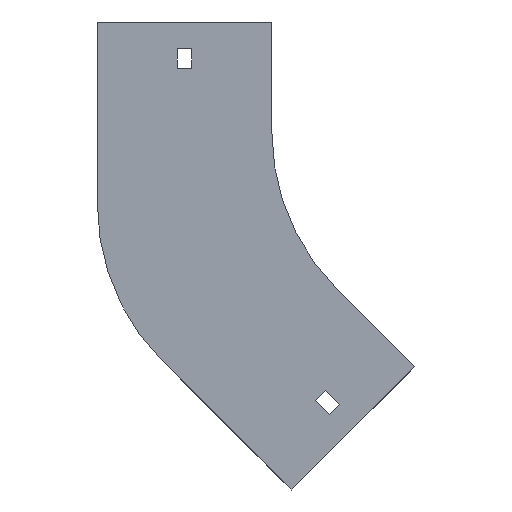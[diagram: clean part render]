
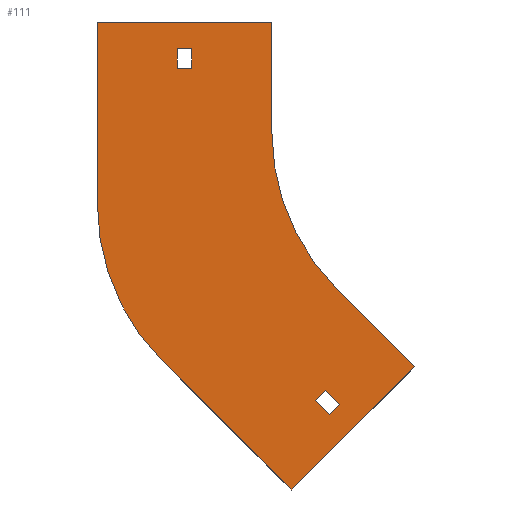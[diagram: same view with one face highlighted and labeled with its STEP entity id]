
A CAD part, front view. The second image highlights one B-rep face of the part: STEP entity #111.
In plain terms, the highlighted planar face has unit normal (0, -1, 0).
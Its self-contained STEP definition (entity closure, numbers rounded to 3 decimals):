
#21 = VERTEX_POINT ( 'NONE', #760 ) ;
#50 = EDGE_CURVE ( 'NONE', #375, #1441, #460, .T. ) ;
#55 = ORIENTED_EDGE ( 'NONE', *, *, #1180, .F. ) ;
#91 = CARTESIAN_POINT ( 'NONE',  ( -80.433, 0., -121.446 ) ) ;
#110 = VECTOR ( 'NONE', #605, 1000. ) ;
#111 = ADVANCED_FACE ( 'NONE', ( #802, #471, #219 ), #929, .T. ) ;
#124 = ORIENTED_EDGE ( 'NONE', *, *, #187, .F. ) ;
#128 = LINE ( 'NONE', #1920, #833 ) ;
#131 = VERTEX_POINT ( 'NONE', #1104 ) ;
#173 = CARTESIAN_POINT ( 'NONE',  ( -142.75, 0., 29. ) ) ;
#174 = CIRCLE ( 'NONE', #1759, 100. ) ;
#187 = EDGE_CURVE ( 'NONE', #1730, #970, #1630, .T. ) ;
#219 = FACE_BOUND ( 'NONE', #299, .T. ) ;
#230 = EDGE_LOOP ( 'NONE', ( #1542, #1442, #124, #1685, #843, #1838, #476, #1468 ) ) ;
#299 = EDGE_LOOP ( 'NONE', ( #1385, #1844, #1352, #55 ) ) ;
#300 = EDGE_CURVE ( 'NONE', #1441, #1141, #1266, .T. ) ;
#318 = EDGE_LOOP ( 'NONE', ( #1411, #763, #629, #1818 ) ) ;
#341 = DIRECTION ( 'NONE',  ( 0.707, 0., -0.707 ) ) ;
#344 = DIRECTION ( 'NONE',  ( 0., 0., -1. ) ) ;
#353 = VERTEX_POINT ( 'NONE', #1288 ) ;
#365 = DIRECTION ( 'NONE',  ( 1., 0., 0. ) ) ;
#373 = VERTEX_POINT ( 'NONE', #1435 ) ;
#375 = VERTEX_POINT ( 'NONE', #91 ) ;
#394 = VECTOR ( 'NONE', #1325, 1000. ) ;
#403 = EDGE_CURVE ( 'NONE', #1826, #1730, #999, .T. ) ;
#410 = EDGE_CURVE ( 'NONE', #1147, #373, #513, .T. ) ;
#431 = VECTOR ( 'NONE', #1534, 1000. ) ;
#440 = LINE ( 'NONE', #1041, #487 ) ;
#460 = LINE ( 'NONE', #1536, #470 ) ;
#468 = CARTESIAN_POINT ( 'NONE',  ( -80.433, 0., -121.446 ) ) ;
#470 = VECTOR ( 'NONE', #341, 1000. ) ;
#471 = FACE_OUTER_BOUND ( 'NONE', #230, .T. ) ;
#476 = ORIENTED_EDGE ( 'NONE', *, *, #577, .F. ) ;
#478 = LINE ( 'NONE', #1794, #110 ) ;
#487 = VECTOR ( 'NONE', #1469, 1000. ) ;
#513 = LINE ( 'NONE', #968, #1102 ) ;
#518 = CARTESIAN_POINT ( 'NONE',  ( -69.473, 0., -123.213 ) ) ;
#520 = CARTESIAN_POINT ( 'NONE',  ( -74.069, 0., -127.81 ) ) ;
#577 = EDGE_CURVE ( 'NONE', #954, #691, #174, .T. ) ;
#597 = DIRECTION ( 'NONE',  ( 1., 0., 0. ) ) ;
#605 = DIRECTION ( 'NONE',  ( 0.707, 0., -0.707 ) ) ;
#626 = VECTOR ( 'NONE', #344, 1000. ) ;
#629 = ORIENTED_EDGE ( 'NONE', *, *, #1549, .T. ) ;
#650 = LINE ( 'NONE', #1253, #626 ) ;
#664 = LINE ( 'NONE', #817, #1559 ) ;
#677 = DIRECTION ( 'NONE',  ( 0., 1., 0. ) ) ;
#683 = CARTESIAN_POINT ( 'NONE',  ( -136.25, 0., 29. ) ) ;
#690 = EDGE_CURVE ( 'NONE', #691, #704, #478, .T. ) ;
#691 = VERTEX_POINT ( 'NONE', #1802 ) ;
#698 = LINE ( 'NONE', #683, #1834 ) ;
#704 = VERTEX_POINT ( 'NONE', #1367 ) ;
#760 = CARTESIAN_POINT ( 'NONE',  ( -100., 0., 50. ) ) ;
#763 = ORIENTED_EDGE ( 'NONE', *, *, #410, .T. ) ;
#766 = CARTESIAN_POINT ( 'NONE',  ( -149.711, 0., -103.434 ) ) ;
#802 = FACE_BOUND ( 'NONE', #318, .T. ) ;
#813 = EDGE_CURVE ( 'NONE', #353, #375, #1815, .T. ) ;
#817 = CARTESIAN_POINT ( 'NONE',  ( -179., 0., -32.723 ) ) ;
#833 = VECTOR ( 'NONE', #885, 1000. ) ;
#843 = ORIENTED_EDGE ( 'NONE', *, *, #1601, .F. ) ;
#868 = CARTESIAN_POINT ( 'NONE',  ( -136.25, 0., 29. ) ) ;
#885 = DIRECTION ( 'NONE',  ( -0.707, 0., -0.707 ) ) ;
#925 = LINE ( 'NONE', #1243, #1878 ) ;
#929 = PLANE ( 'NONE',  #1538 ) ;
#935 = DIRECTION ( 'NONE',  ( -0.707, 0., 0.707 ) ) ;
#937 = CARTESIAN_POINT ( 'NONE',  ( -91.217, 0., -161.927 ) ) ;
#954 = VERTEX_POINT ( 'NONE', #1037 ) ;
#960 = VECTOR ( 'NONE', #597, 1000. ) ;
#968 = CARTESIAN_POINT ( 'NONE',  ( -142.75, 0., 38. ) ) ;
#970 = VERTEX_POINT ( 'NONE', #1638 ) ;
#999 = LINE ( 'NONE', #1860, #1687 ) ;
#1006 = DIRECTION ( 'NONE',  ( 0., 0., -1. ) ) ;
#1037 = CARTESIAN_POINT ( 'NONE',  ( -100., 0., 0. ) ) ;
#1041 = CARTESIAN_POINT ( 'NONE',  ( -142.75, 0., 29. ) ) ;
#1072 = CARTESIAN_POINT ( 'NONE',  ( 0., 0., 0. ) ) ;
#1089 = VERTEX_POINT ( 'NONE', #1148 ) ;
#1102 = VECTOR ( 'NONE', #365, 1000. ) ;
#1104 = CARTESIAN_POINT ( 'NONE',  ( -142.75, 0., 29. ) ) ;
#1141 = VERTEX_POINT ( 'NONE', #518 ) ;
#1147 = VERTEX_POINT ( 'NONE', #1263 ) ;
#1148 = CARTESIAN_POINT ( 'NONE',  ( -179., 0., 50. ) ) ;
#1178 = DIRECTION ( 'NONE',  ( 0., -1., 0. ) ) ;
#1180 = EDGE_CURVE ( 'NONE', #1141, #353, #925, .T. ) ;
#1218 = EDGE_CURVE ( 'NONE', #21, #954, #650, .T. ) ;
#1243 = CARTESIAN_POINT ( 'NONE',  ( -75.837, 0., -116.849 ) ) ;
#1253 = CARTESIAN_POINT ( 'NONE',  ( -100., 0., 50. ) ) ;
#1263 = CARTESIAN_POINT ( 'NONE',  ( -142.75, 0., 38. ) ) ;
#1266 = LINE ( 'NONE', #520, #1946 ) ;
#1288 = CARTESIAN_POINT ( 'NONE',  ( -75.837, 0., -116.849 ) ) ;
#1291 = CARTESIAN_POINT ( 'NONE',  ( -74.069, 0., -127.81 ) ) ;
#1292 = AXIS2_PLACEMENT_3D ( 'NONE', #1600, #677, #1896 ) ;
#1299 = DIRECTION ( 'NONE',  ( 0., 0., -1. ) ) ;
#1312 = CARTESIAN_POINT ( 'NONE',  ( 0., 0., 0. ) ) ;
#1323 = CARTESIAN_POINT ( 'NONE',  ( -179., 0., 50. ) ) ;
#1325 = DIRECTION ( 'NONE',  ( 0., 0., 1. ) ) ;
#1352 = ORIENTED_EDGE ( 'NONE', *, *, #813, .F. ) ;
#1367 = CARTESIAN_POINT ( 'NONE',  ( -35.355, 0., -106.066 ) ) ;
#1385 = ORIENTED_EDGE ( 'NONE', *, *, #300, .F. ) ;
#1386 = DIRECTION ( 'NONE',  ( 0., -1., 0. ) ) ;
#1389 = VERTEX_POINT ( 'NONE', #868 ) ;
#1411 = ORIENTED_EDGE ( 'NONE', *, *, #1573, .T. ) ;
#1435 = CARTESIAN_POINT ( 'NONE',  ( -136.25, 0., 38. ) ) ;
#1441 = VERTEX_POINT ( 'NONE', #1291 ) ;
#1442 = ORIENTED_EDGE ( 'NONE', *, *, #1793, .F. ) ;
#1468 = ORIENTED_EDGE ( 'NONE', *, *, #1218, .F. ) ;
#1469 = DIRECTION ( 'NONE',  ( -1., 0., 0. ) ) ;
#1510 = LINE ( 'NONE', #173, #394 ) ;
#1534 = DIRECTION ( 'NONE',  ( -0.707, 0., -0.707 ) ) ;
#1536 = CARTESIAN_POINT ( 'NONE',  ( -80.433, 0., -121.446 ) ) ;
#1538 = AXIS2_PLACEMENT_3D ( 'NONE', #1072, #1386, #1666 ) ;
#1542 = ORIENTED_EDGE ( 'NONE', *, *, #1898, .F. ) ;
#1549 = EDGE_CURVE ( 'NONE', #373, #1389, #698, .T. ) ;
#1559 = VECTOR ( 'NONE', #1714, 1000. ) ;
#1573 = EDGE_CURVE ( 'NONE', #131, #1147, #1510, .T. ) ;
#1600 = CARTESIAN_POINT ( 'NONE',  ( -79., 0., -32.723 ) ) ;
#1601 = EDGE_CURVE ( 'NONE', #704, #1826, #128, .T. ) ;
#1630 = CIRCLE ( 'NONE', #1292, 100. ) ;
#1638 = CARTESIAN_POINT ( 'NONE',  ( -179., 0., -32.723 ) ) ;
#1666 = DIRECTION ( 'NONE',  ( 0., 0., -1. ) ) ;
#1685 = ORIENTED_EDGE ( 'NONE', *, *, #403, .F. ) ;
#1687 = VECTOR ( 'NONE', #1847, 1000. ) ;
#1714 = DIRECTION ( 'NONE',  ( 0., 0., 1. ) ) ;
#1716 = DIRECTION ( 'NONE',  ( 0.707, 0., 0.707 ) ) ;
#1730 = VERTEX_POINT ( 'NONE', #766 ) ;
#1758 = LINE ( 'NONE', #1323, #960 ) ;
#1759 = AXIS2_PLACEMENT_3D ( 'NONE', #1312, #1178, #1006 ) ;
#1793 = EDGE_CURVE ( 'NONE', #970, #1089, #664, .T. ) ;
#1794 = CARTESIAN_POINT ( 'NONE',  ( -70.711, 0., -70.711 ) ) ;
#1802 = CARTESIAN_POINT ( 'NONE',  ( -70.711, 0., -70.711 ) ) ;
#1815 = LINE ( 'NONE', #468, #431 ) ;
#1818 = ORIENTED_EDGE ( 'NONE', *, *, #1892, .T. ) ;
#1826 = VERTEX_POINT ( 'NONE', #937 ) ;
#1834 = VECTOR ( 'NONE', #1299, 1000. ) ;
#1838 = ORIENTED_EDGE ( 'NONE', *, *, #690, .F. ) ;
#1844 = ORIENTED_EDGE ( 'NONE', *, *, #50, .F. ) ;
#1847 = DIRECTION ( 'NONE',  ( -0.707, 0., 0.707 ) ) ;
#1860 = CARTESIAN_POINT ( 'NONE',  ( -91.217, 0., -161.927 ) ) ;
#1878 = VECTOR ( 'NONE', #935, 1000. ) ;
#1892 = EDGE_CURVE ( 'NONE', #1389, #131, #440, .T. ) ;
#1896 = DIRECTION ( 'NONE',  ( 0., 0., 1. ) ) ;
#1898 = EDGE_CURVE ( 'NONE', #1089, #21, #1758, .T. ) ;
#1920 = CARTESIAN_POINT ( 'NONE',  ( -35.355, 0., -106.066 ) ) ;
#1946 = VECTOR ( 'NONE', #1716, 1000. ) ;
